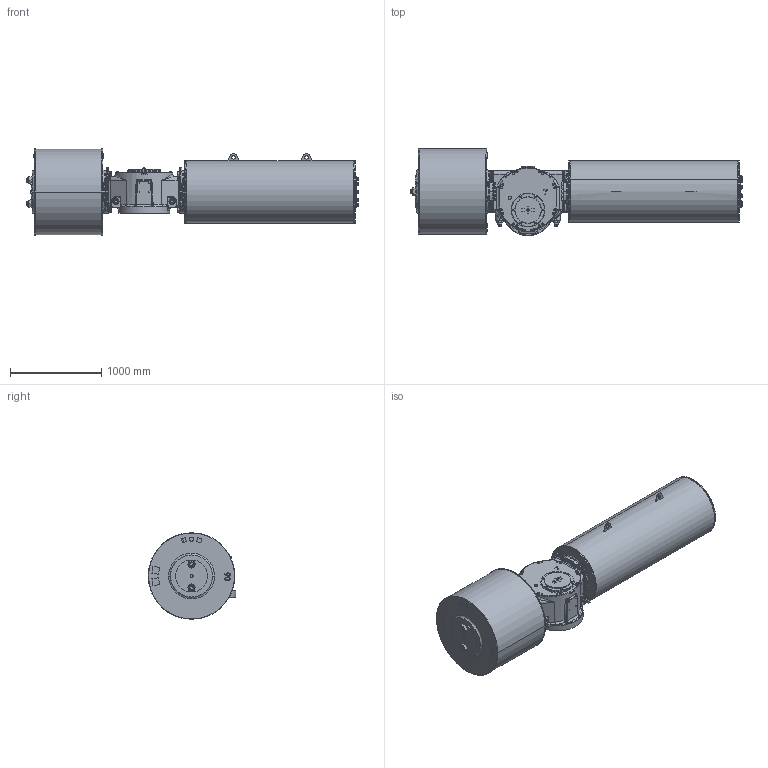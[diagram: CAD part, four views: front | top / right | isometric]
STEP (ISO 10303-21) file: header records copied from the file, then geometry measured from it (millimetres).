
FILE_DESCRIPTION (( 'STEP AP203' ), '1' );
FILE_NAME ('VTS7-900-SR-FC.STEP', '2023-01-01T10:09:36', ( '' ), ( '' ), 'SwSTEP 2.0', 'SolidWorks 2020', '' );
FILE_SCHEMA (( 'CONFIG_CONTROL_DESIGN' ));
Length unit declared in the file: millimetre
Products named in the file (1): VTS7-900-SR-FC
Bounding box: 3633.22 x 956.5 x 947 mm (x, y, z)
Volume: 1396756482.8 mm3; surface area: 12037658.8 mm2
Topology: 54 solids, 55 shells, 3430 faces, 8329 edges, 5085 vertices
Faces by surface type: cylinder 1160, plane 1081, cone 816, bspline 366, torus 7
Entity records: 127434 total; most frequent: CARTESIAN_POINT 49267, DIRECTION 16461, ORIENTED_EDGE 16374, EDGE_CURVE 8187, AXIS2_PLACEMENT_3D 6633, VERTEX_POINT 5085, EDGE_LOOP 3774, CIRCLE 3568
